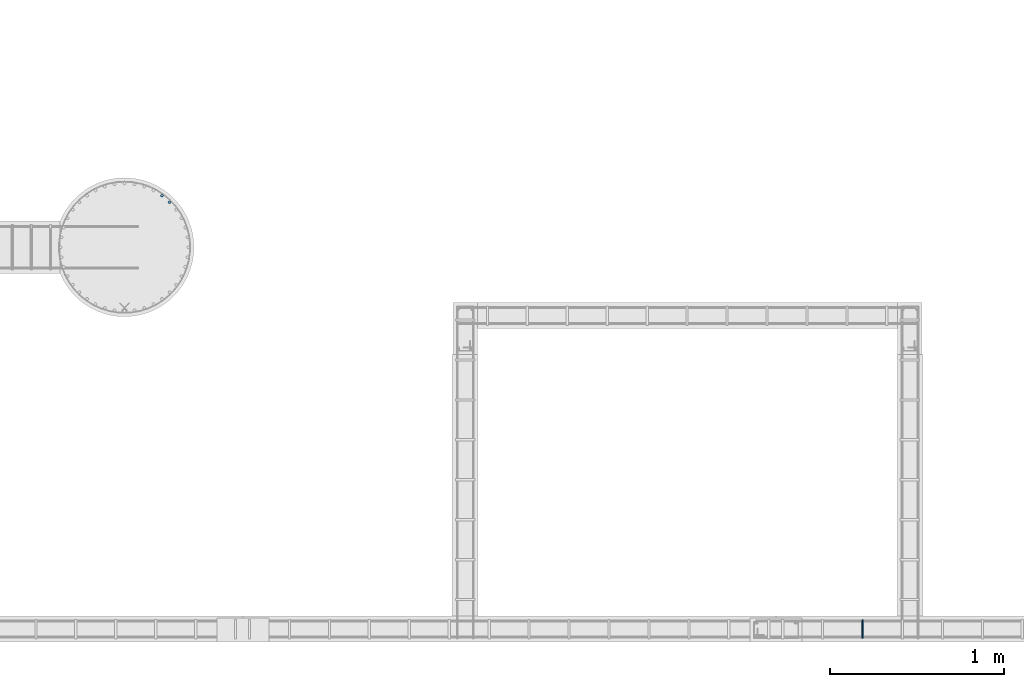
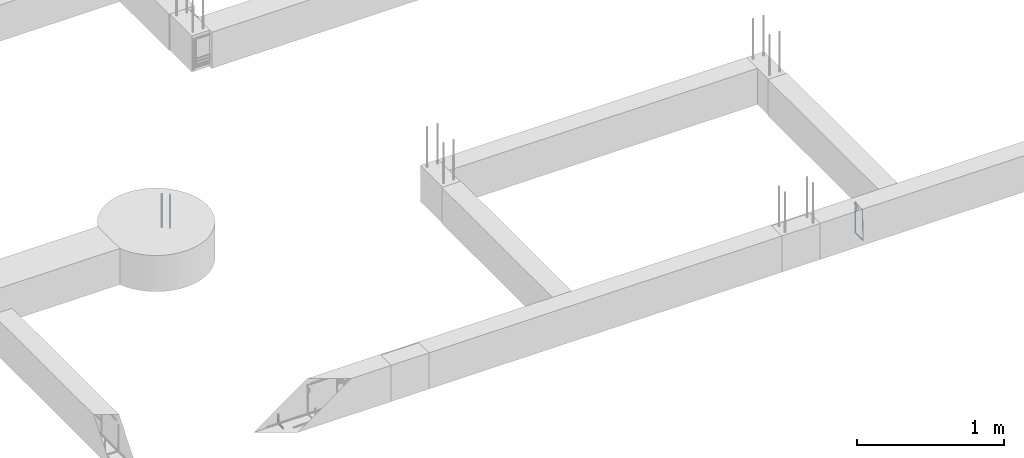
# One storey, part 42 of 150: 3 reinforcing bars.
"""IFC4 building model written with IfcOpenShell, lengths in centimetres."""

from ifc_helpers import new_model, entity, si_unit, derived_unit, frame, origin_with_axes, place, context, project, spatial, source, transform, mapped, element, save


model = new_model("IFC4")

# Units and contexts
model_context = context("Model", 3, precision=1e-05, world=origin_with_axes(), identifier="Body")
ifc_project = project(units=[si_unit("LENGTHUNIT", "METRE", prefix="CENTI"), si_unit("VOLUMEUNIT", "CUBIC_METRE"), si_unit("AREAUNIT", "SQUARE_METRE"), si_unit("POWERUNIT", "WATT"), si_unit("LUMINOUSFLUXUNIT", "LUMEN"), si_unit("ELECTRICCURRENTUNIT", "AMPERE"), si_unit("PRESSUREUNIT", "PASCAL", prefix="KILO"), si_unit("MASSUNIT", "GRAM", prefix="KILO"), si_unit("PLANEANGLEUNIT", "RADIAN"), derived_unit("VOLUMETRICFLOWRATEUNIT", [(si_unit("LENGTHUNIT", "METRE"), 3), (si_unit("TIMEUNIT", "SECOND"), -1)])], contexts=[model_context])

# Site, building, storey
site_placement = place(None, frame((-4000.0, 0.0, 0.0), z_axis=(0.0, 0.0, 1.0), x_axis=(1.0, 0.0, 0.0)))
site = spatial("IfcSite", under=ifc_project, at=site_placement, Name="PADRÃO")
building_placement = place(site_placement, frame((0.0, 0.0, -14.0)))
building = spatial("IfcBuilding", under=site, at=building_placement, Name="CRECHE PRÉ-ESCOLA TIPO 2")
placement = place(building_placement, origin_with_axes())
storey_placement = place(placement, frame((0.0, 0.0, 30.0), z_axis=(0.0, 0.0, 1.0), x_axis=(1.0, 0.0, 0.0)))
storey = spatial("IfcBuildingStorey", under=building, at=storey_placement, Name="VIGA BALDRAME", CompositionType="ELEMENT", Elevation=16.0)

# Reinforcing bars
shared_shape = source(origin_with_axes(), model_context, "Body", "AdvancedSweptSolid", [
    entity("IfcSweptDiskSolid", entity("IfcCompositeCurve", [entity("IfcCompositeCurveSegment", "CONTINUOUS", True, entity("IfcPolyline", [entity("IfcCartesianPoint", [2.0, -6.0, 0.0]), entity("IfcCartesianPoint", [2.0, 0.0, 0.0])])), entity("IfcCompositeCurveSegment", "CONTINUOUS", True, entity("IfcPolyline", [entity("IfcCartesianPoint", [2.0, 0.0, 0.0]), entity("IfcCartesianPoint", [0.0, 0.0, 0.0])])), entity("IfcCompositeCurveSegment", "CONTINUOUS", True, entity("IfcPolyline", [entity("IfcCartesianPoint", [0.0, 0.0, 0.0]), entity("IfcCartesianPoint", [0.0, -25.5, 0.0])])), entity("IfcCompositeCurveSegment", "CONTINUOUS", True, entity("IfcPolyline", [entity("IfcCartesianPoint", [0.0, -25.5, 0.0]), entity("IfcCartesianPoint", [10.5, -25.5, 0.0])])), entity("IfcCompositeCurveSegment", "CONTINUOUS", True, entity("IfcPolyline", [entity("IfcCartesianPoint", [10.5, -25.5, 0.0]), entity("IfcCartesianPoint", [10.5, 0.0, 0.5])])), entity("IfcCompositeCurveSegment", "CONTINUOUS", True, entity("IfcPolyline", [entity("IfcCartesianPoint", [10.5, 0.0, 0.5]), entity("IfcCartesianPoint", [0.0, 0.0, 0.5])])), entity("IfcCompositeCurveSegment", "CONTINUOUS", True, entity("IfcPolyline", [entity("IfcCartesianPoint", [0.0, 0.0, 0.5]), entity("IfcCartesianPoint", [0.0, -2.0, 0.5])])), entity("IfcCompositeCurveSegment", "CONTINUOUS", True, entity("IfcPolyline", [entity("IfcCartesianPoint", [0.0, -2.0, 0.5]), entity("IfcCartesianPoint", [6.0, -2.0, 0.5])]))], False), 0.25),
])
reinforcing_bar_placement = place(storey_placement, frame((2810.5, 14.75, -2.25), z_axis=(-1.0, 0.0, 0.0), x_axis=(0.0, -1.0, 0.0)))
element("IfcReinforcingBar", 1, at=reinforcing_bar_placement, inside=storey, Name="V158 - Estribo", BarLength=0.0, CrossSectionArea=1.9634954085e-05, NominalDiameter=0.5, PredefinedType="MAIN", context=model_context, shape_type="MappedRepresentation", body=[
    mapped(shared_shape, transform((0.0, 0.0, 0.0), scale=1.0)),
])
for number, where, z_axis, x_axis, name in (
    (2, (2411.23081886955, 255.340818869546, -2.0), (0.0, 0.0, 1.0), (1.0, 0.0, 0.0), "P151 - Longitudinal"),
    (3, (2406.85171875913, 259.080923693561, -2.0), (0.0, 0.0, 1.0), (1.0, 0.0, 0.0), "P151 - Longitudinal"),
):
    element("IfcReinforcingBar", number, at=place(storey_placement, frame(where, z_axis=z_axis, x_axis=x_axis)), inside=storey, Name=name, BarLength=0.0, CrossSectionArea=0.00020106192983, NominalDiameter=1.6, PredefinedType="MAIN", context=model_context, shape_type="AdvancedSweptSolid", body=[
        entity("IfcSweptDiskSolid", entity("IfcCompositeCurve", [entity("IfcCompositeCurveSegment", "CONTINUOUS", True, entity("IfcPolyline", [entity("IfcCartesianPoint", [0.0, 0.0, -28.0]), entity("IfcCartesianPoint", [0.0, 0.0, 0.0])]))], False), 0.8),
    ])

save(model, "model.ifc")
